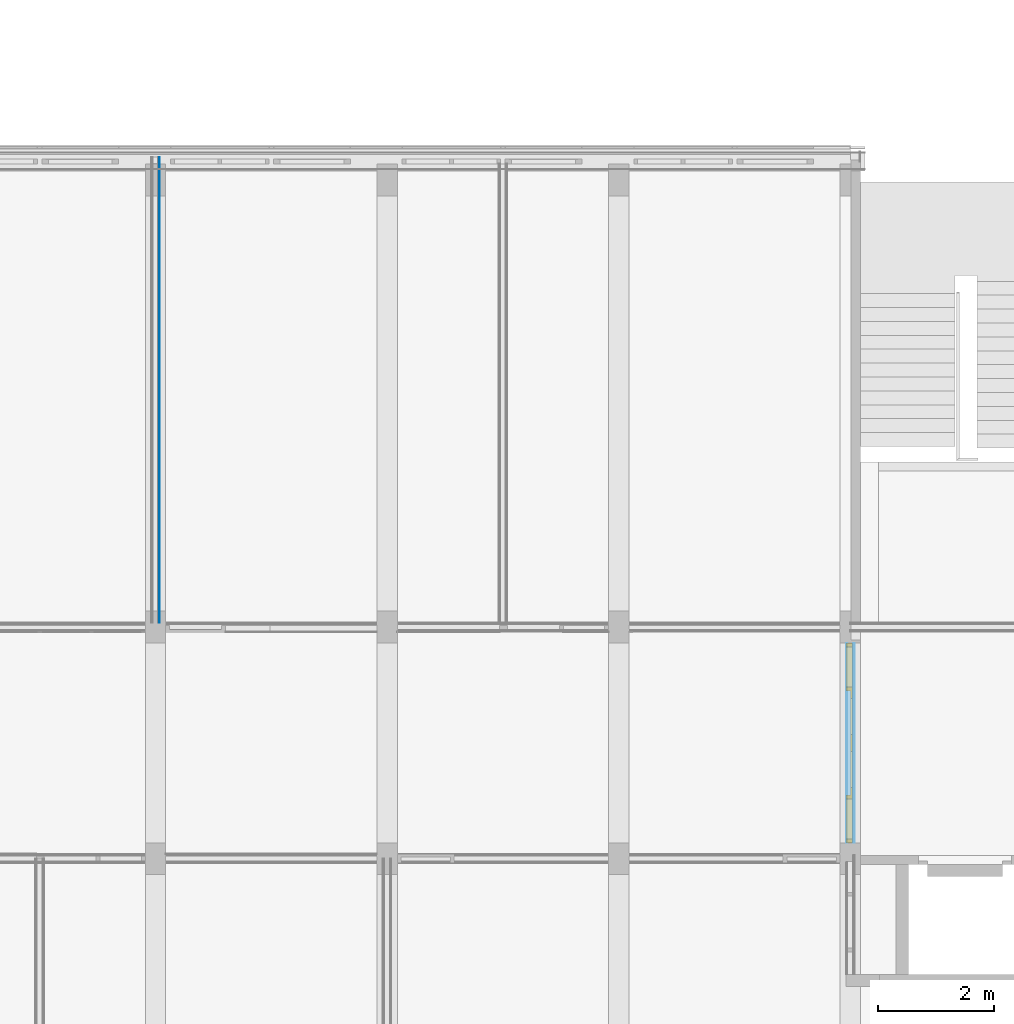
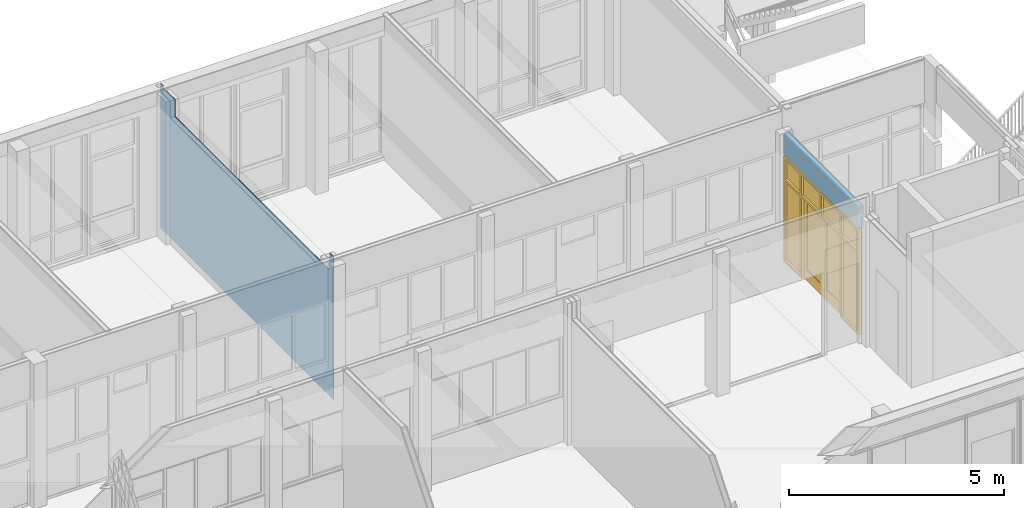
# One storey, part 55 of 94: 1 building element part, 1 door, 1 opening, 2 elements without a shape of their own, plus 5 elements that do not belong to this part.
"""IFC2X3 building model written with IfcOpenShell, lengths in millimetres."""

from ifc_helpers import new_model, entity, si_unit, converted_unit, derived_unit, money_unit, direction, frame, origin_with_axes, place, context, subcontext, project, spatial, open_shell, faceted_brep, surface_model, material, type_object, element, fill, aggregate, save


model = new_model("IFC2X3")

# Units and contexts
model_context = context("Model", 3, precision=0.01, world=origin_with_axes(), true_north=direction((0.0, 1.0)))
body_context = subcontext(model_context, "Body", "Model", "MODEL_VIEW")
ifc_project = project(units=[si_unit("LENGTHUNIT", "METRE", prefix="MILLI"), si_unit("AREAUNIT", "SQUARE_METRE"), si_unit("VOLUMEUNIT", "CUBIC_METRE"), converted_unit("PLANEANGLEUNIT", "DEGREE", entity("IfcPlaneAngleMeasure", 0.0174532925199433), si_unit("PLANEANGLEUNIT", "RADIAN"), dimensions=[0, 0, 0, 0, 0, 0, 0]), money_unit("EUR"), converted_unit("TIMEUNIT", "Year", entity("IfcTimeMeasure", 31557600.0), si_unit("TIMEUNIT", "SECOND"), dimensions=[0, 0, 1, 0, 0, 0, 0]), si_unit("MASSUNIT", "GRAM", prefix="KILO"), si_unit("THERMODYNAMICTEMPERATUREUNIT", "DEGREE_CELSIUS"), si_unit("LUMINOUSINTENSITYUNIT", "LUMEN"), si_unit("ENERGYUNIT", "JOULE", prefix="MEGA"), derived_unit("THERMALCONDUCTANCEUNIT", [(si_unit("POWERUNIT", "WATT"), 1), (si_unit("LENGTHUNIT", "METRE"), -1), (si_unit("THERMODYNAMICTEMPERATUREUNIT", "KELVIN"), -1)]), derived_unit("SPECIFICHEATCAPACITYUNIT", [(si_unit("ENERGYUNIT", "JOULE"), 1), (si_unit("MASSUNIT", "GRAM", prefix="KILO"), -1), (si_unit("THERMODYNAMICTEMPERATUREUNIT", "KELVIN"), -1)]), derived_unit("MASSDENSITYUNIT", [(si_unit("MASSUNIT", "GRAM", prefix="KILO"), 1), (si_unit("VOLUMEUNIT", "CUBIC_METRE"), -1)])], contexts=[model_context])

# Site, building, storey
site_placement = place(None, origin_with_axes())
site = spatial("IfcSite", under=ifc_project, at=site_placement, Name="<site naam>", CompositionType="ELEMENT")
building_placement = place(site_placement, origin_with_axes())
building = spatial("IfcBuilding", under=site, at=building_placement, Name="<Naam gebouw>", CompositionType="ELEMENT")
storey_placement = place(building_placement, frame((0.0, 0.0, 4250.0), z_axis=(0.0, 0.0, 1.0), x_axis=(1.0, 0.0, 0.0)))
storey = spatial("IfcBuildingStorey", under=building, at=storey_placement, Name="01 1e verdieping", CompositionType="ELEMENT", Elevation=4250.0)

# Door
door_style = type_object("IfcDoorStyle", Name="D2 bl zl2 27", ConstructionType="NOTDEFINED", OperationType="USERDEFINED", ParameterTakesPrecedence=False, Sizeable=False)
wall_1_placement = place(storey_placement, frame((48000.00000000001, 8275.000000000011, 0.0), z_axis=(0.0, 0.0, 1.0), x_axis=(0.0, 1.0, 0.0)))
opening_placement = place(wall_1_placement, frame((1725.0, 0.0, 0.0), z_axis=(0.0, 0.0, 1.0), x_axis=(1.0, 0.0, 0.0)))
door_placement = place(opening_placement, frame((1724.999999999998, 0.0, 0.0), z_axis=(0.0, 0.0, 1.0), x_axis=(-1.0, 0.0, 0.0)))
door = element("IfcDoor", 1, at=door_placement, inside=storey, type_object=door_style, Name="22_BI-D-03_305", ObjectType="DOOR", OverallHeight=3000.0, OverallWidth=3450.0, context=body_context, shape_type="SurfaceModel", body=[
    faceted_brep([(3449.999999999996, 39.00000000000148, 0.0), (3449.999999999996, -74.99999999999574, 0.0), (3382.999999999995, -74.99999999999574, 0.0), (3382.999999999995, 39.00000000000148, 0.0), (3449.999999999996, 39.00000000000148, 2933.0), (3449.999999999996, -74.99999999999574, 2933.0), (3382.999999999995, -74.99999999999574, 2933.0), (3382.999999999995, -74.99999999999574, 2367.0), (3382.999999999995, -74.99999999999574, 2300.0), (3382.999999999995, -74.99999999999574, 67.00000000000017), (3382.999999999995, 39.00000000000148, 67.00000000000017), (3382.999999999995, 39.00000000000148, 2300.0), (3382.999999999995, 39.00000000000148, 2367.0), (3382.999999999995, 39.00000000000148, 2933.0)], [[[0, 1, 2, 3]], [[4, 5, 1, 0]], [[1, 5, 6, 7, 8, 9, 2]], [[3, 2, 9, 10]], [[0, 3, 10, 11, 12, 13, 4]], [[13, 6, 5, 4]], [[12, 7, 6, 13]], [[11, 8, 7, 12]], [[10, 9, 8, 11]]]),
    faceted_brep([(2624.999999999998, -0.9999999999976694, 2317.0), (2624.999999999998, -0.9999999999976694, 2300.0), (2624.999999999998, -74.99999999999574, 2300.0), (2624.999999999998, -74.99999999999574, 2367.0), (2624.999999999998, 39.00000000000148, 2367.0), (2624.999999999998, 39.00000000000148, 2317.0), (2641.999999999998, -0.9999999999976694, 2317.0), (2641.999999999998, -0.9999999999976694, 0.0), (2624.999999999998, -0.9999999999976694, 0.0), (2624.999999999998, -74.99999999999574, 0.0), (2691.999999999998, -74.99999999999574, 0.0), (2691.999999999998, -74.99999999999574, 67.00000000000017), (2691.999999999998, -74.99999999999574, 2300.0), (2691.999999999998, -74.99999999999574, 2367.0), (2691.999999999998, -74.99999999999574, 2933.0), (2624.999999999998, -74.99999999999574, 2933.0), (2624.999999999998, 39.00000000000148, 2933.0), (2641.999999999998, 39.00000000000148, 2317.0), (2691.999999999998, 39.00000000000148, 2933.0), (2691.999999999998, 39.00000000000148, 2367.0), (2691.999999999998, 39.00000000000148, 2300.0), (2691.999999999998, 39.00000000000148, 67.00000000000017), (2691.999999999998, 39.00000000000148, 0.0), (2641.999999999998, 39.00000000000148, 0.0)], [[[0, 1, 2, 3, 4, 5]], [[0, 6, 7, 8, 1]], [[8, 9, 2, 1]], [[2, 9, 10, 11, 12, 13, 14, 15, 3]], [[16, 4, 3, 15]], [[17, 5, 4, 16, 18, 19, 20, 21, 22, 23]], [[5, 17, 6, 0]], [[23, 7, 6, 17]], [[7, 23, 22, 10, 9, 8]], [[22, 21, 11, 10]], [[21, 20, 12, 11]], [[20, 19, 13, 12]], [[19, 18, 14, 13]], [[18, 16, 15, 14]]]),
    faceted_brep([(3382.999999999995, 39.00000000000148, 67.00000000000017), (3382.999999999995, -74.99999999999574, 67.00000000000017), (3382.999999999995, -74.99999999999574, 0.0), (3382.999999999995, 39.00000000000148, 0.0), (2691.999999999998, 39.00000000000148, 67.00000000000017), (2691.999999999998, -74.99999999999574, 67.00000000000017), (2691.999999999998, -74.99999999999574, 0.0), (2691.999999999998, 39.00000000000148, 0.0)], [[[0, 1, 2, 3]], [[4, 5, 1, 0]], [[1, 5, 6, 2]], [[3, 2, 6, 7]], [[0, 3, 7, 4]], [[7, 6, 5, 4]]]),
    faceted_brep([(0.0, 39.00000000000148, 0.0), (0.0, -74.99999999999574, 0.0), (0.0, -74.99999999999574, 2933.0), (0.0, 39.00000000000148, 2933.0), (67.00000000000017, 39.00000000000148, 0.0), (67.00000000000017, -74.99999999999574, 0.0), (67.00000000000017, -74.99999999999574, 67.00000000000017), (67.00000000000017, -74.99999999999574, 2300.0), (67.00000000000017, -74.99999999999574, 2367.0), (67.00000000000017, -74.99999999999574, 2933.0), (67.00000000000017, 39.00000000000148, 2933.0), (67.00000000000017, 39.00000000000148, 2367.0), (67.00000000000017, 39.00000000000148, 2300.0), (67.00000000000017, 39.00000000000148, 67.00000000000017)], [[[0, 1, 2, 3]], [[4, 5, 1, 0]], [[1, 5, 6, 7, 8, 9, 2]], [[3, 2, 9, 10]], [[0, 3, 10, 11, 12, 13, 4]], [[13, 6, 5, 4]], [[12, 7, 6, 13]], [[11, 8, 7, 12]], [[10, 9, 8, 11]]]),
    faceted_brep([(807.9999999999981, 39.00000000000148, 2317.0), (807.9999999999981, 39.00000000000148, 0.0), (757.9999999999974, 39.00000000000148, 0.0), (757.9999999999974, 39.00000000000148, 67.00000000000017), (757.9999999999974, 39.00000000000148, 2300.0), (757.9999999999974, 39.00000000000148, 2367.0), (757.9999999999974, 39.00000000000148, 2933.0), (824.9999999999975, 39.00000000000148, 2933.0), (824.9999999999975, 39.00000000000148, 2367.0), (824.9999999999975, 39.00000000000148, 2317.0), (807.9999999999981, -0.9999999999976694, 2317.0), (807.9999999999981, -0.9999999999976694, 0.0), (824.9999999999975, -0.9999999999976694, 0.0), (824.9999999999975, -74.99999999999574, 0.0), (757.9999999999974, -74.99999999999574, 0.0), (757.9999999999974, -74.99999999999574, 67.00000000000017), (757.9999999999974, -74.99999999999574, 2300.0), (757.9999999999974, -74.99999999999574, 2367.0), (757.9999999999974, -74.99999999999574, 2933.0), (824.9999999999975, -74.99999999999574, 2933.0), (824.9999999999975, -74.99999999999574, 2367.0), (824.9999999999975, -0.9999999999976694, 2317.0), (824.9999999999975, -74.99999999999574, 2300.0), (824.9999999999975, -0.9999999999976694, 2300.0)], [[[0, 1, 2, 3, 4, 5, 6, 7, 8, 9]], [[0, 10, 11, 1]], [[11, 12, 13, 14, 2, 1]], [[3, 2, 14, 15]], [[4, 3, 15, 16]], [[5, 4, 16, 17]], [[6, 5, 17, 18]], [[7, 6, 18, 19]], [[8, 7, 19, 20]], [[21, 9, 8, 20, 22, 23]], [[9, 21, 10, 0]], [[11, 10, 21, 23, 12]], [[23, 22, 13, 12]], [[15, 14, 13, 22, 20, 19, 18, 17, 16]]]),
    faceted_brep([(757.9999999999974, 39.00000000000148, 67.00000000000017), (757.9999999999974, -74.99999999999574, 67.00000000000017), (757.9999999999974, -74.99999999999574, 0.0), (757.9999999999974, 39.00000000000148, 0.0), (67.00000000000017, 39.00000000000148, 67.00000000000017), (67.00000000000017, -74.99999999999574, 67.00000000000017), (67.00000000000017, -74.99999999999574, 0.0), (67.00000000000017, 39.00000000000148, 0.0)], [[[0, 1, 2, 3]], [[4, 5, 1, 0]], [[1, 5, 6, 2]], [[3, 2, 6, 7]], [[0, 3, 7, 4]], [[7, 6, 5, 4]]]),
    faceted_brep([(3449.999999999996, 39.00000000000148, 3000.0), (3449.999999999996, -74.99999999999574, 3000.0), (3449.999999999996, -74.99999999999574, 2933.0), (3449.999999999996, 39.00000000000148, 2933.0), (0.0, 39.00000000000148, 3000.0), (0.0, -74.99999999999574, 3000.0), (0.0, -74.99999999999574, 2933.0), (67.00000000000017, -74.99999999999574, 2933.0), (757.9999999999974, -74.99999999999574, 2933.0), (824.9999999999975, -74.99999999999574, 2933.0), (2624.999999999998, -74.99999999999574, 2933.0), (2691.999999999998, -74.99999999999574, 2933.0), (3382.999999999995, -74.99999999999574, 2933.0), (3382.999999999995, 39.00000000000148, 2933.0), (2691.999999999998, 39.00000000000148, 2933.0), (2624.999999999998, 39.00000000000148, 2933.0), (824.9999999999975, 39.00000000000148, 2933.0), (757.9999999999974, 39.00000000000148, 2933.0), (67.00000000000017, 39.00000000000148, 2933.0), (0.0, 39.00000000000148, 2933.0)], [[[0, 1, 2, 3]], [[4, 5, 1, 0]], [[1, 5, 6, 7, 8, 9, 10, 11, 12, 2]], [[3, 2, 12, 13]], [[0, 3, 13, 14, 15, 16, 17, 18, 19, 4]], [[19, 6, 5, 4]], [[18, 7, 6, 19]], [[17, 8, 7, 18]], [[16, 9, 8, 17]], [[15, 10, 9, 16]], [[14, 11, 10, 15]], [[13, 12, 11, 14]]]),
    faceted_brep([(3382.999999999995, 39.00000000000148, 2300.0), (3382.999999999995, -74.99999999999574, 2300.0), (2691.999999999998, -74.99999999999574, 2300.0), (2691.999999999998, 39.00000000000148, 2300.0), (3382.999999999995, 39.00000000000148, 2367.0), (3382.999999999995, -74.99999999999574, 2367.0), (2691.999999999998, -74.99999999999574, 2367.0), (2691.999999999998, 39.00000000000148, 2367.0)], [[[0, 1, 2, 3]], [[4, 5, 1, 0]], [[1, 5, 6, 2]], [[3, 2, 6, 7]], [[0, 3, 7, 4]], [[7, 6, 5, 4]]]),
    faceted_brep([(67.00000000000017, 39.00000000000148, 2367.0), (67.00000000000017, -74.99999999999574, 2367.0), (757.9999999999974, -74.99999999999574, 2367.0), (757.9999999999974, 39.00000000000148, 2367.0), (67.00000000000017, 39.00000000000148, 2300.0), (67.00000000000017, -74.99999999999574, 2300.0), (757.9999999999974, -74.99999999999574, 2300.0), (757.9999999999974, 39.00000000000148, 2300.0)], [[[0, 1, 2, 3]], [[4, 5, 1, 0]], [[1, 5, 6, 2]], [[3, 2, 6, 7]], [[0, 3, 7, 4]], [[7, 6, 5, 4]]]),
    faceted_brep([(824.9999999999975, -0.9999999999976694, 2317.0), (824.9999999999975, -0.9999999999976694, 2300.0), (824.9999999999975, -74.99999999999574, 2300.0), (824.9999999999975, -74.99999999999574, 2367.0), (824.9999999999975, 39.00000000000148, 2367.0), (824.9999999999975, 39.00000000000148, 2317.0), (2624.999999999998, -0.9999999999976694, 2317.0), (2624.999999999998, -0.9999999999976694, 2300.0), (2624.999999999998, -74.99999999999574, 2300.0), (2624.999999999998, -74.99999999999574, 2367.0), (2624.999999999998, 39.00000000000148, 2367.0), (2624.999999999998, 39.00000000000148, 2317.0)], [[[0, 1, 2, 3, 4, 5]], [[0, 6, 7, 1]], [[7, 8, 2, 1]], [[8, 9, 3, 2]], [[10, 4, 3, 9]], [[5, 4, 10, 11]], [[5, 11, 6, 0]], [[6, 11, 10, 9, 8, 7]]]),
    faceted_brep([(807.9999999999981, 39.00000000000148, 299.9999999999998), (957.9999999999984, 39.00000000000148, 299.9999999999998), (957.9999999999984, -0.9999999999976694, 299.9999999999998), (807.9999999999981, -0.9999999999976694, 299.9999999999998), (807.9999999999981, 39.00000000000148, 2167.0), (957.9999999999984, 39.00000000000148, 2167.0), (957.9999999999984, -0.9999999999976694, 2167.0), (807.9999999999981, -0.9999999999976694, 2167.0)], [[[0, 1, 2, 3]], [[0, 4, 5, 1]], [[1, 5, 6, 2]], [[3, 2, 6, 7]], [[4, 0, 3, 7]], [[5, 4, 7, 6]]]),
    faceted_brep([(1724.999999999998, 39.00000000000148, 299.9999999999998), (1724.999999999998, 39.00000000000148, 2167.0), (1724.999999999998, -0.9999999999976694, 2167.0), (1724.999999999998, -0.9999999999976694, 299.9999999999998), (1574.999999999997, 39.00000000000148, 299.9999999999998), (1574.999999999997, 39.00000000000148, 2167.0), (1574.999999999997, -0.9999999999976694, 2167.0), (1574.999999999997, -0.9999999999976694, 299.9999999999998)], [[[0, 1, 2, 3]], [[0, 4, 5, 1]], [[1, 5, 6, 2]], [[3, 2, 6, 7]], [[4, 0, 3, 7]], [[5, 4, 7, 6]]]),
    faceted_brep([(807.9999999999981, 39.00000000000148, 0.0), (1724.999999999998, 39.00000000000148, 0.0), (1724.999999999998, -0.9999999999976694, 0.0), (807.9999999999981, -0.9999999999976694, 0.0), (807.9999999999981, 39.00000000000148, 299.9999999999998), (957.9999999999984, 39.00000000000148, 299.9999999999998), (1574.999999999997, 39.00000000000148, 299.9999999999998), (1724.999999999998, 39.00000000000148, 299.9999999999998), (1724.999999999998, -0.9999999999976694, 299.9999999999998), (1574.999999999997, -0.9999999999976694, 299.9999999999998), (957.9999999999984, -0.9999999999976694, 299.9999999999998), (807.9999999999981, -0.9999999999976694, 299.9999999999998)], [[[0, 1, 2, 3]], [[0, 4, 5, 6, 7, 1]], [[1, 7, 8, 2]], [[3, 2, 8, 9, 10, 11]], [[4, 0, 3, 11]], [[5, 4, 11, 10]], [[6, 5, 10, 9]], [[7, 6, 9, 8]]]),
    faceted_brep([(807.9999999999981, 39.00000000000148, 2317.0), (807.9999999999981, 39.00000000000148, 2167.0), (807.9999999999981, -0.9999999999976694, 2167.0), (807.9999999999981, -0.9999999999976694, 2317.0), (1724.999999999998, 39.00000000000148, 2317.0), (1724.999999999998, 39.00000000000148, 2167.0), (1574.999999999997, 39.00000000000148, 2167.0), (957.9999999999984, 39.00000000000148, 2167.0), (957.9999999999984, -0.9999999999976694, 2167.0), (1574.999999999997, -0.9999999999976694, 2167.0), (1724.999999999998, -0.9999999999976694, 2167.0), (1724.999999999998, -0.9999999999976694, 2317.0)], [[[0, 1, 2, 3]], [[0, 4, 5, 6, 7, 1]], [[1, 7, 8, 2]], [[3, 2, 8, 9, 10, 11]], [[4, 0, 3, 11]], [[5, 4, 11, 10]], [[6, 5, 10, 9]], [[7, 6, 9, 8]]]),
    surface_model("IfcShellBasedSurfaceModel", [(957.9999999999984, 24.99999999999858, 299.9999999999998), (957.9999999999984, 24.99999999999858, 2167.0), (1574.999999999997, 24.99999999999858, 2167.0), (1574.999999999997, 24.99999999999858, 299.9999999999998)], [open_shell([[[0, 1, 2, 3]]])]),
    surface_model("IfcShellBasedSurfaceModel", [(957.9999999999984, 12.99999999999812, 299.9999999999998), (1574.999999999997, 12.99999999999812, 299.9999999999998), (1574.999999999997, 12.99999999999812, 2167.0), (957.9999999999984, 12.99999999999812, 2167.0)], [open_shell([[[0, 1, 2, 3]]])]),
    faceted_brep([(2641.999999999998, 39.00000000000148, 299.9999999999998), (2641.999999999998, -0.9999999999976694, 299.9999999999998), (2491.999999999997, -0.9999999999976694, 299.9999999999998), (2491.999999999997, 39.00000000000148, 299.9999999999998), (2641.999999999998, 39.00000000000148, 2167.0), (2641.999999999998, -0.9999999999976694, 2167.0), (2491.999999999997, -0.9999999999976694, 2167.0), (2491.999999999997, 39.00000000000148, 2167.0)], [[[0, 1, 2, 3]], [[4, 5, 1, 0]], [[1, 5, 6, 2]], [[3, 2, 6, 7]], [[0, 3, 7, 4]], [[7, 6, 5, 4]]]),
    faceted_brep([(1724.999999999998, 39.00000000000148, 299.9999999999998), (1724.999999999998, -0.9999999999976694, 299.9999999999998), (1724.999999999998, -0.9999999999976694, 2167.0), (1724.999999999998, 39.00000000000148, 2167.0), (1874.999999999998, 39.00000000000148, 299.9999999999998), (1874.999999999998, -0.9999999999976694, 299.9999999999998), (1874.999999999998, -0.9999999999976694, 2167.0), (1874.999999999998, 39.00000000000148, 2167.0)], [[[0, 1, 2, 3]], [[4, 5, 1, 0]], [[1, 5, 6, 2]], [[3, 2, 6, 7]], [[0, 3, 7, 4]], [[7, 6, 5, 4]]]),
    faceted_brep([(2641.999999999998, 39.00000000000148, 0.0), (2641.999999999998, -0.9999999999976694, 0.0), (1724.999999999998, -0.9999999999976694, 0.0), (1724.999999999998, 39.00000000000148, 0.0), (2641.999999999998, 39.00000000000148, 299.9999999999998), (2641.999999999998, -0.9999999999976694, 299.9999999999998), (2491.999999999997, -0.9999999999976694, 299.9999999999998), (1874.999999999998, -0.9999999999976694, 299.9999999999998), (1724.999999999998, -0.9999999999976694, 299.9999999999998), (1724.999999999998, 39.00000000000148, 299.9999999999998), (1874.999999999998, 39.00000000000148, 299.9999999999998), (2491.999999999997, 39.00000000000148, 299.9999999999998)], [[[0, 1, 2, 3]], [[4, 5, 1, 0]], [[1, 5, 6, 7, 8, 2]], [[3, 2, 8, 9]], [[0, 3, 9, 10, 11, 4]], [[11, 6, 5, 4]], [[10, 7, 6, 11]], [[9, 8, 7, 10]]]),
    faceted_brep([(2641.999999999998, 39.00000000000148, 2317.0), (2641.999999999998, -0.9999999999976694, 2317.0), (2641.999999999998, -0.9999999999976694, 2167.0), (2641.999999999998, 39.00000000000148, 2167.0), (1724.999999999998, 39.00000000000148, 2317.0), (1724.999999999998, -0.9999999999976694, 2317.0), (1724.999999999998, -0.9999999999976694, 2167.0), (1874.999999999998, -0.9999999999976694, 2167.0), (2491.999999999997, -0.9999999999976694, 2167.0), (2491.999999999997, 39.00000000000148, 2167.0), (1874.999999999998, 39.00000000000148, 2167.0), (1724.999999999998, 39.00000000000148, 2167.0)], [[[0, 1, 2, 3]], [[4, 5, 1, 0]], [[1, 5, 6, 7, 8, 2]], [[3, 2, 8, 9]], [[0, 3, 9, 10, 11, 4]], [[11, 6, 5, 4]], [[10, 7, 6, 11]], [[9, 8, 7, 10]]]),
    surface_model("IfcShellBasedSurfaceModel", [(2491.999999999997, 24.99999999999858, 299.9999999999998), (1874.999999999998, 24.99999999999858, 299.9999999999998), (1874.999999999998, 24.99999999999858, 2167.0), (2491.999999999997, 24.99999999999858, 2167.0)], [open_shell([[[0, 1, 2, 3]]])]),
    surface_model("IfcShellBasedSurfaceModel", [(2491.999999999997, 12.99999999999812, 299.9999999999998), (2491.999999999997, 12.99999999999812, 2167.0), (1874.999999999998, 12.99999999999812, 2167.0), (1874.999999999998, 12.99999999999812, 299.9999999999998)], [open_shell([[[0, 1, 2, 3]]])]),
    surface_model("IfcShellBasedSurfaceModel", [(3382.999999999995, -21.0000000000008, 2367.0), (3382.999999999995, -21.0000000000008, 2933.0), (2691.999999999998, -21.0000000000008, 2933.0), (2691.999999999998, -21.0000000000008, 2367.0)], [open_shell([[[0, 1, 2, 3]]])]),
    surface_model("IfcShellBasedSurfaceModel", [(3382.999999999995, -9.000000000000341, 2367.0), (2691.999999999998, -9.000000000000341, 2367.0), (2691.999999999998, -9.000000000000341, 2933.0), (3382.999999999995, -9.000000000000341, 2933.0)], [open_shell([[[0, 1, 2, 3]]])]),
    surface_model("IfcShellBasedSurfaceModel", [(1758.499999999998, -21.0000000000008, 2367.0), (2624.999999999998, -21.0000000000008, 2367.0), (2624.999999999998, -21.0000000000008, 2933.0), (1758.499999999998, -21.0000000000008, 2933.0)], [open_shell([[[0, 1, 2, 3]]])]),
    surface_model("IfcShellBasedSurfaceModel", [(1758.499999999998, -9.000000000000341, 2367.0), (1758.499999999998, -9.000000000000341, 2933.0), (2624.999999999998, -9.000000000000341, 2933.0), (2624.999999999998, -9.000000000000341, 2367.0)], [open_shell([[[0, 1, 2, 3]]])]),
    surface_model("IfcShellBasedSurfaceModel", [(824.9999999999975, -21.0000000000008, 2367.0), (1691.499999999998, -21.0000000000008, 2367.0), (1691.499999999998, -21.0000000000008, 2933.0), (824.9999999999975, -21.0000000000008, 2933.0)], [open_shell([[[0, 1, 2, 3]]])]),
    surface_model("IfcShellBasedSurfaceModel", [(824.9999999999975, -9.000000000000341, 2367.0), (824.9999999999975, -9.000000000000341, 2933.0), (1691.499999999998, -9.000000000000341, 2933.0), (1691.499999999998, -9.000000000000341, 2367.0)], [open_shell([[[0, 1, 2, 3]]])]),
    faceted_brep([(1758.499999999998, -74.99999999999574, 2367.0), (1691.499999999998, -74.99999999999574, 2367.0), (1691.499999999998, 39.00000000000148, 2367.0), (1758.499999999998, 39.00000000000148, 2367.0), (1758.499999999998, -74.99999999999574, 2933.0), (1691.499999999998, -74.99999999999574, 2933.0), (1691.499999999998, 39.00000000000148, 2933.0), (1758.499999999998, 39.00000000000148, 2933.0)], [[[0, 1, 2, 3]], [[0, 4, 5, 1]], [[1, 5, 6, 2]], [[3, 2, 6, 7]], [[4, 0, 3, 7]], [[5, 4, 7, 6]]]),
    surface_model("IfcShellBasedSurfaceModel", [(757.9999999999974, -21.0000000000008, 2367.0), (757.9999999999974, -21.0000000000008, 2933.0), (67.00000000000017, -21.0000000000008, 2933.0), (67.00000000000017, -21.0000000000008, 2367.0)], [open_shell([[[0, 1, 2, 3]]])]),
    surface_model("IfcShellBasedSurfaceModel", [(757.9999999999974, -9.000000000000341, 2367.0), (67.00000000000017, -9.000000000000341, 2367.0), (67.00000000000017, -9.000000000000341, 2933.0), (757.9999999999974, -9.000000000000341, 2933.0)], [open_shell([[[0, 1, 2, 3]]])]),
    surface_model("IfcShellBasedSurfaceModel", [(3382.999999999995, -21.0000000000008, 67.00000000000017), (3382.999999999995, -21.0000000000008, 2300.000000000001), (2691.999999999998, -21.0000000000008, 2300.000000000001), (2691.999999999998, -21.0000000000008, 67.00000000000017)], [open_shell([[[0, 1, 2, 3]]])]),
    surface_model("IfcShellBasedSurfaceModel", [(3382.999999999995, -9.000000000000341, 67.00000000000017), (2691.999999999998, -9.000000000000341, 67.00000000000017), (2691.999999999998, -9.000000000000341, 2300.000000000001), (3382.999999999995, -9.000000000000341, 2300.000000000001)], [open_shell([[[0, 1, 2, 3]]])]),
    surface_model("IfcShellBasedSurfaceModel", [(757.9999999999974, -21.0000000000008, 67.00000000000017), (757.9999999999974, -21.0000000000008, 2300.000000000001), (67.00000000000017, -21.0000000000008, 2300.000000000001), (67.00000000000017, -21.0000000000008, 67.00000000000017)], [open_shell([[[0, 1, 2, 3]]])]),
    surface_model("IfcShellBasedSurfaceModel", [(757.9999999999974, -9.000000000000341, 67.00000000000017), (67.00000000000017, -9.000000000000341, 67.00000000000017), (67.00000000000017, -9.000000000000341, 2300.000000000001), (757.9999999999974, -9.000000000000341, 2300.000000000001)], [open_shell([[[0, 1, 2, 3]]])]),
])

# Wall, opening
wall_type = type_object("IfcWallType", Name="MS-01 GF 150 ECO DGS/2.100.2.A 150", PredefinedType="NOTDEFINED")
wall_1 = element("IfcWall", 2, at=wall_1_placement, inside=storey, type_object=wall_type, Name="22_Binnenwand_MS-01")
opening = element("IfcOpeningElement", 3, at=opening_placement, cuts=wall_1, Name="22_BI-D-03_305", context=body_context, shape_type="Brep", body=[
    faceted_brep([(-1724.999999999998, -76.00000000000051, 3000.0), (-1724.999999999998, -76.00000000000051, 0.0), (1724.999999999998, -76.00000000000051, 0.0), (1724.999999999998, -76.00000000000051, 3000.0), (-1724.999999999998, 76.00000000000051, 3000.0), (-1724.999999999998, 76.00000000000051, 0.0), (1724.999999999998, 76.00000000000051, 0.0), (1724.999999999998, 76.00000000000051, 3000.0)], [[[0, 1, 2, 3]], [[4, 5, 1, 0]], [[5, 6, 2, 1]], [[6, 7, 3, 2]], [[7, 4, 0, 3]], [[6, 5, 4, 7]]]),
])

fill(opening, door)

# Building element part
ifc_material_1 = material(Name="gipsplaat")
building_element_part_1_placement = place(wall_1_placement, origin_with_axes())
building_element_part_1 = element("IfcBuildingElementPart", 4, at=building_element_part_1_placement, material=ifc_material_1, Name="gipsplaat", context=body_context, shape_type="Brep", body=[
    faceted_brep([(3449.999999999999, 75.00000000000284, 3619.999999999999), (3449.999999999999, 62.5, 3619.999999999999), (3449.999999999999, 62.5, 3040.0), (3449.999999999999, 75.00000000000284, 3040.0), (0.0, 62.5, 3619.999999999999), (0.0, 75.00000000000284, 3619.999999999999), (0.0, 62.5, 3040.0), (0.0, 75.00000000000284, 3040.0)], [[[0, 1, 2, 3]], [[4, 1, 0, 5]], [[1, 4, 6, 2]], [[7, 3, 2, 6]], [[5, 0, 3, 7]], [[4, 5, 7, 6]]]),
    faceted_brep([(0.0, 62.5, 3.000000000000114), (3449.999999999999, 62.5, 3.000000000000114), (3449.999999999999, 62.5, 3000.0), (0.0, 62.5, 3000.0), (3449.999999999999, 75.00000000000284, 3.000000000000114), (0.0, 75.00000000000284, 3.000000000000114), (3449.999999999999, 75.00000000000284, 3000.0), (0.0, 75.00000000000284, 3000.0)], [[[0, 1, 2, 3]], [[4, 1, 0, 5]], [[1, 4, 6, 2]], [[3, 2, 6, 7]], [[5, 0, 3, 7]], [[4, 5, 7, 6]]]),
])

building_element_part_2_placement = place(wall_1_placement, origin_with_axes())
building_element_part_2 = element("IfcBuildingElementPart", 5, at=building_element_part_2_placement, material=ifc_material_1, Name="gipsplaat", context=body_context, shape_type="Brep", body=[
    faceted_brep([(3449.999999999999, 62.5, 3619.999999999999), (3449.999999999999, 49.99999999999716, 3619.999999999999), (3449.999999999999, 49.99999999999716, 3040.0), (3449.999999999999, 62.5, 3040.0), (0.0, 49.99999999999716, 3619.999999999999), (0.0, 62.5, 3619.999999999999), (0.0, 49.99999999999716, 3040.0), (0.0, 62.5, 3040.0)], [[[0, 1, 2, 3]], [[4, 1, 0, 5]], [[1, 4, 6, 2]], [[7, 3, 2, 6]], [[5, 0, 3, 7]], [[4, 5, 7, 6]]]),
    faceted_brep([(0.0, 49.99999999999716, 3.000000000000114), (3449.999999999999, 49.99999999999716, 3.000000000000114), (3449.999999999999, 49.99999999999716, 3000.0), (0.0, 49.99999999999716, 3000.0), (3449.999999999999, 62.5, 3.000000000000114), (0.0, 62.5, 3.000000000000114), (3449.999999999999, 62.5, 3000.0), (0.0, 62.5, 3000.0)], [[[0, 1, 2, 3]], [[4, 1, 0, 5]], [[1, 4, 6, 2]], [[3, 2, 6, 7]], [[5, 0, 3, 7]], [[4, 5, 7, 6]]]),
])

ifc_material_2 = material(Name="isolatie_steenwol LSW")
building_element_part_3_placement = place(wall_1_placement, origin_with_axes())
building_element_part_3 = element("IfcBuildingElementPart", 6, at=building_element_part_3_placement, material=ifc_material_2, Name="isolatie_steenwol LSW", context=body_context, shape_type="Brep", body=[
    faceted_brep([(3449.999999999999, 49.99999999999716, 3619.999999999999), (3449.999999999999, -49.99999999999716, 3619.999999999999), (3449.999999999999, -49.99999999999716, 3040.0), (3449.999999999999, 49.99999999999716, 3040.0), (0.0, -49.99999999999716, 3619.999999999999), (0.0, 49.99999999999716, 3619.999999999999), (0.0, -49.99999999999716, 3040.0), (0.0, 49.99999999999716, 3040.0)], [[[0, 1, 2, 3]], [[4, 1, 0, 5]], [[1, 4, 6, 2]], [[7, 3, 2, 6]], [[5, 0, 3, 7]], [[4, 5, 7, 6]]]),
    faceted_brep([(0.0, -49.99999999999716, 3.000000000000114), (3449.999999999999, -49.99999999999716, 3.000000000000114), (3449.999999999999, -49.99999999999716, 3000.0), (0.0, -49.99999999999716, 3000.0), (3449.999999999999, 49.99999999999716, 3.000000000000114), (0.0, 49.99999999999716, 3.000000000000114), (3449.999999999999, 49.99999999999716, 3000.0), (0.0, 49.99999999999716, 3000.0)], [[[0, 1, 2, 3]], [[4, 1, 0, 5]], [[1, 4, 6, 2]], [[3, 2, 6, 7]], [[5, 0, 3, 7]], [[4, 5, 7, 6]]]),
])

building_element_part_4_placement = place(wall_1_placement, origin_with_axes())
building_element_part_4 = element("IfcBuildingElementPart", 7, at=building_element_part_4_placement, material=ifc_material_1, Name="gipsplaat", context=body_context, shape_type="Brep", body=[
    faceted_brep([(3449.999999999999, -49.99999999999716, 3619.999999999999), (3449.999999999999, -62.5, 3619.999999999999), (3449.999999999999, -62.5, 3040.0), (3449.999999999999, -49.99999999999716, 3040.0), (0.0, -62.5, 3619.999999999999), (0.0, -49.99999999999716, 3619.999999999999), (0.0, -62.5, 3040.0), (0.0, -49.99999999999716, 3040.0)], [[[0, 1, 2, 3]], [[4, 1, 0, 5]], [[1, 4, 6, 2]], [[7, 3, 2, 6]], [[5, 0, 3, 7]], [[4, 5, 7, 6]]]),
    faceted_brep([(0.0, -62.5, 3.000000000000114), (3449.999999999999, -62.5, 3.000000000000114), (3449.999999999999, -62.5, 3000.0), (0.0, -62.5, 3000.0), (3449.999999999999, -49.99999999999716, 3.000000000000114), (0.0, -49.99999999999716, 3.000000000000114), (3449.999999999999, -49.99999999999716, 3000.0), (0.0, -49.99999999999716, 3000.0)], [[[0, 1, 2, 3]], [[4, 1, 0, 5]], [[1, 4, 6, 2]], [[3, 2, 6, 7]], [[5, 0, 3, 7]], [[4, 5, 7, 6]]]),
])

building_element_part_5_placement = place(wall_1_placement, origin_with_axes())
building_element_part_5 = element("IfcBuildingElementPart", 8, at=building_element_part_5_placement, material=ifc_material_1, Name="gipsplaat", context=body_context, shape_type="Brep", body=[
    faceted_brep([(3449.999999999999, -62.5, 3619.999999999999), (3449.999999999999, -75.00000000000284, 3619.999999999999), (3449.999999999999, -75.00000000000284, 3040.0), (3449.999999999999, -62.5, 3040.0), (0.0, -75.00000000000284, 3619.999999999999), (0.0, -62.5, 3619.999999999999), (0.0, -75.00000000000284, 3040.0), (0.0, -62.5, 3040.0)], [[[0, 1, 2, 3]], [[4, 1, 0, 5]], [[1, 4, 6, 2]], [[7, 3, 2, 6]], [[5, 0, 3, 7]], [[4, 5, 7, 6]]]),
    faceted_brep([(0.0, -75.00000000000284, 3.000000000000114), (3449.999999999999, -75.00000000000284, 3.000000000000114), (3449.999999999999, -75.00000000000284, 3000.0), (0.0, -75.00000000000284, 3000.0), (3449.999999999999, -62.5, 3.000000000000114), (0.0, -62.5, 3.000000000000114), (3449.999999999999, -62.5, 3000.0), (0.0, -62.5, 3000.0)], [[[0, 1, 2, 3]], [[4, 1, 0, 5]], [[1, 4, 6, 2]], [[3, 2, 6, 7]], [[5, 0, 3, 7]], [[4, 5, 7, 6]]]),
])

aggregate(wall_1, [building_element_part_1, building_element_part_2, building_element_part_3, building_element_part_4, building_element_part_5])

# Wall, building element part
wall_2_placement = place(storey_placement, frame((36000.00000000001, 20116.99995206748, 0.0), z_axis=(0.0, 0.0, 1.0), x_axis=(0.0, -1.0, 0.0)))
wall_2 = element("IfcWall", 9, at=wall_2_placement, inside=storey, type_object=wall_type, Name="22_Binnenwand_MS-01")
building_element_part_6_placement = place(wall_2_placement, origin_with_axes())
building_element_part_6 = element("IfcBuildingElementPart", 10, at=building_element_part_6_placement, material=ifc_material_1, Name="gipsplaat", context=body_context, shape_type="Brep", body=[
    faceted_brep([(111.4538021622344, 62.5, 4100.0), (111.4538021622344, 75.00000000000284, 4100.0), (0.0, 75.00000000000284, 4100.0), (0.0, 62.5, 4100.0), (111.4538021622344, 75.00000000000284, 3569.999999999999), (111.4538021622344, 62.5, 3569.999999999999), (7841.999952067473, 74.99999999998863, 4050.000000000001), (8041.999952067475, 74.99999999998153, 4050.000000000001), (8041.999952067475, 74.99999999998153, 0.0), (0.0, 75.00000000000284, 0.0), (116.9999520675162, 75.00000000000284, 3569.999999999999), (116.9999520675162, 75.00000000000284, 4050.000000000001), (666.9999520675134, 75.00000000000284, 4050.000000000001), (666.9999520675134, 75.00000000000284, 3569.999999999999), (7841.999952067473, 74.99999999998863, 3569.999999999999), (0.0, 62.5, 0.0), (8041.999952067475, 62.49999999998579, 0.0), (8041.999952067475, 62.49999999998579, 4050.000000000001), (7841.999952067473, 62.49999999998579, 4050.000000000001), (7841.999952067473, 62.49999999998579, 3569.999999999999), (666.9999520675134, 62.5, 3569.999999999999), (666.9999520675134, 62.5, 4050.000000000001), (116.9999520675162, 62.5, 4050.000000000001), (116.9999520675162, 62.5, 3569.999999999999)], [[[0, 1, 2, 3]], [[4, 1, 0, 5]], [[6, 7, 8, 9, 2, 1, 4, 10, 11, 12, 13, 14]], [[15, 3, 2, 9]], [[5, 0, 3, 15, 16, 17, 18, 19, 20, 21, 22, 23]], [[10, 4, 5, 23]], [[7, 6, 18, 17]], [[7, 17, 16, 8]], [[15, 9, 8, 16]], [[11, 10, 23, 22]], [[12, 11, 22, 21]], [[13, 12, 21, 20]], [[14, 13, 20, 19]], [[6, 14, 19, 18]]]),
])
aggregate(wall_2, [building_element_part_6])

save(model, "model.ifc")
